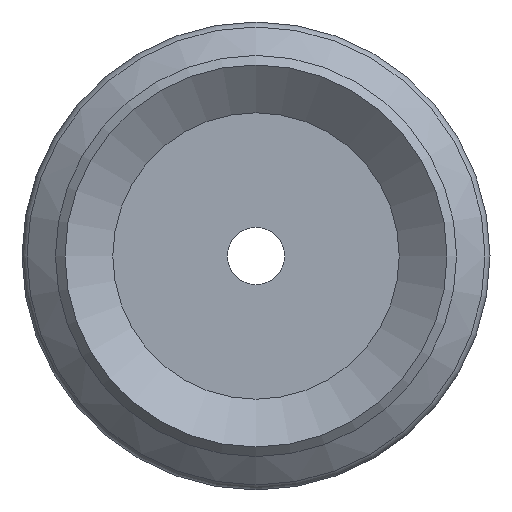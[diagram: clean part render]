
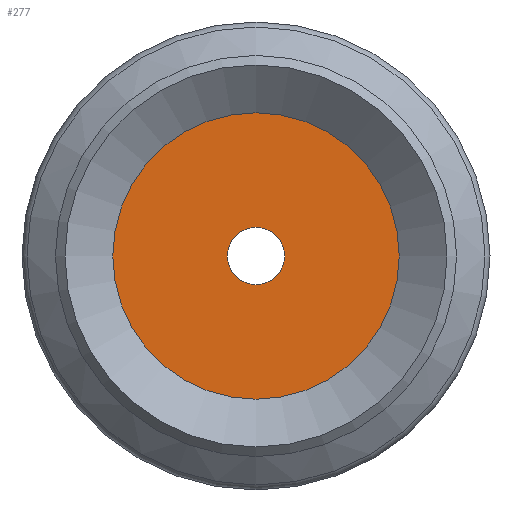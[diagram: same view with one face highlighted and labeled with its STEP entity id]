
A CAD part, front view. The second image highlights one B-rep face of the part: STEP entity #277.
In plain terms, the highlighted planar face has unit normal (0, -1, 0).
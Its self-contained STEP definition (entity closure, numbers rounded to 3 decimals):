
#277=ADVANCED_FACE('',(#347,#348),#349,.T.);
#347=FACE_BOUND('',#492,.T.);
#348=FACE_OUTER_BOUND('',#493,.T.);
#349=PLANE('',#494);
#492=EDGE_LOOP('',(#652));
#493=EDGE_LOOP('',(#653));
#494=AXIS2_PLACEMENT_3D('',#654,#655,#656);
#652=ORIENTED_EDGE('',*,*,#910,.F.);
#653=ORIENTED_EDGE('',*,*,#914,.T.);
#654=CARTESIAN_POINT('',(0.6,-4.0,0.0));
#655=DIRECTION('',(0.0,-1.0,0.0));
#656=DIRECTION('',(0.0,0.0,-1.0));
#910=EDGE_CURVE('',#983,#983,#984,.T.);
#914=EDGE_CURVE('',#991,#991,#992,.T.);
#983=VERTEX_POINT('',#1109);
#984=CIRCLE('',#1110,0.6);
#991=VERTEX_POINT('',#1117);
#992=CIRCLE('',#1118,3.0);
#1109=CARTESIAN_POINT('',(0.0,-4.0,-0.6));
#1110=AXIS2_PLACEMENT_3D('',#1275,#1276,#1277);
#1117=CARTESIAN_POINT('',(0.0,-4.0,-3.0));
#1118=AXIS2_PLACEMENT_3D('',#1287,#1288,#1289);
#1275=CARTESIAN_POINT('',(0.0,-4.0,0.0));
#1276=DIRECTION('',(0.0,-1.0,0.0));
#1277=DIRECTION('',(0.0,0.0,-1.0));
#1287=CARTESIAN_POINT('',(0.0,-4.0,0.0));
#1288=DIRECTION('',(0.0,-1.0,0.0));
#1289=DIRECTION('',(0.0,0.0,-1.0));
